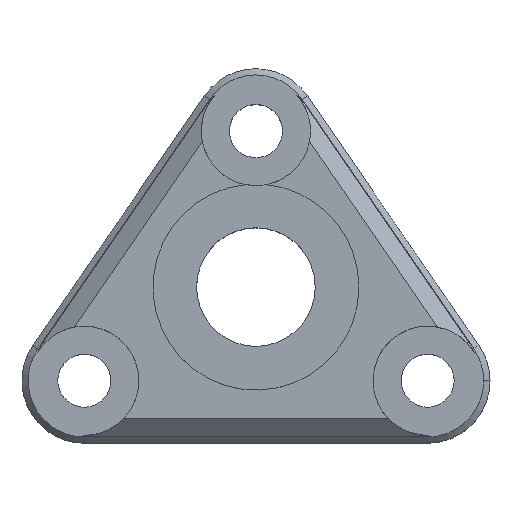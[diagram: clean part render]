
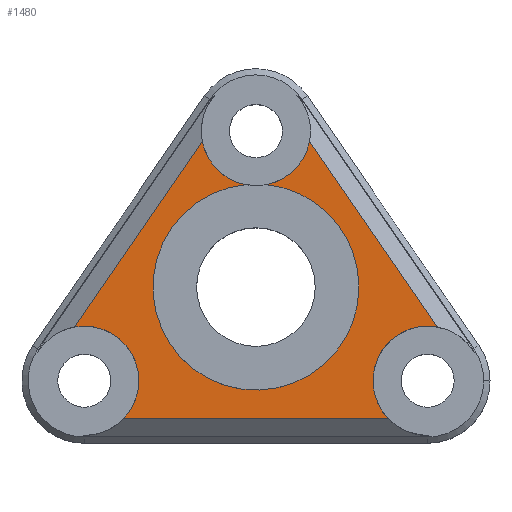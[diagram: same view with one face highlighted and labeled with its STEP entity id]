
A CAD part, top view. The second image highlights one B-rep face of the part: STEP entity #1480.
In plain terms, the highlighted planar face has unit normal (0, 0, 1).
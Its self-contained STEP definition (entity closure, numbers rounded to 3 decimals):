
#996 = VERTEX_POINT('',#997);
#997 = CARTESIAN_POINT('',(3.436,9.333,6.));
#1006 = EDGE_CURVE('',#996,#1007,#1009,.T.);
#1007 = VERTEX_POINT('',#1008);
#1008 = CARTESIAN_POINT('',(11.608,-2.553,6.));
#1009 = B_SPLINE_CURVE_WITH_KNOTS('',1,(#1010,#1011),.UNSPECIFIED.,.F.,
  .F.,(2,2),(0.,19.416),.PIECEWISE_BEZIER_KNOTS.);
#1010 = CARTESIAN_POINT('',(2.769,10.304,6.));
#1011 = CARTESIAN_POINT('',(12.009,-3.136,6.));
#1170 = VERTEX_POINT('',#1171);
#1171 = CARTESIAN_POINT('',(8.452,-8.4,6.));
#1196 = EDGE_CURVE('',#1007,#1170,#1197,.T.);
#1197 = CIRCLE('',#1198,3.5);
#1198 = AXIS2_PLACEMENT_3D('',#1199,#1200,#1201);
#1199 = CARTESIAN_POINT('',(11.,-6.,6.));
#1200 = DIRECTION('',(0.,0.,1.));
#1201 = DIRECTION('',(1.,0.,-0.));
#1220 = VERTEX_POINT('',#1221);
#1221 = CARTESIAN_POINT('',(-11.608,-2.553,6.));
#1246 = EDGE_CURVE('',#1220,#1247,#1249,.T.);
#1247 = VERTEX_POINT('',#1248);
#1248 = CARTESIAN_POINT('',(-3.436,9.333,6.));
#1249 = B_SPLINE_CURVE_WITH_KNOTS('',1,(#1250,#1251),.UNSPECIFIED.,.F.,
  .F.,(2,2),(0.,19.416),.PIECEWISE_BEZIER_KNOTS.);
#1250 = CARTESIAN_POINT('',(-12.009,-3.136,6.));
#1251 = CARTESIAN_POINT('',(-2.769,10.304,6.));
#1358 = EDGE_CURVE('',#1170,#1359,#1361,.T.);
#1359 = VERTEX_POINT('',#1360);
#1360 = CARTESIAN_POINT('',(-8.452,-8.4,6.));
#1361 = B_SPLINE_CURVE_WITH_KNOTS('',1,(#1362,#1363),.UNSPECIFIED.,.F.,
  .F.,(2,2),(0.,22.),.PIECEWISE_BEZIER_KNOTS.);
#1362 = CARTESIAN_POINT('',(9.24,-8.4,6.));
#1363 = CARTESIAN_POINT('',(-9.24,-8.4,6.));
#1480 = ADVANCED_FACE('',(#1481),#1537,.T.);
#1481 = FACE_BOUND('',#1482,.T.);
#1482 = EDGE_LOOP('',(#1483,#1484,#1493,#1502,#1511,#1518,#1519,#1528,
    #1535,#1536));
#1483 = ORIENTED_EDGE('',*,*,#1006,.F.);
#1484 = ORIENTED_EDGE('',*,*,#1485,.F.);
#1485 = EDGE_CURVE('',#1486,#996,#1488,.T.);
#1486 = VERTEX_POINT('',#1487);
#1487 = CARTESIAN_POINT('',(0.674,6.566,6.));
#1488 = CIRCLE('',#1489,3.5);
#1489 = AXIS2_PLACEMENT_3D('',#1490,#1491,#1492);
#1490 = CARTESIAN_POINT('',(0.,10.,6.));
#1491 = DIRECTION('',(0.,0.,1.));
#1492 = DIRECTION('',(1.,0.,-0.));
#1493 = ORIENTED_EDGE('',*,*,#1494,.F.);
#1494 = EDGE_CURVE('',#1495,#1486,#1497,.T.);
#1495 = VERTEX_POINT('',#1496);
#1496 = CARTESIAN_POINT('',(6.6,0.,6.));
#1497 = CIRCLE('',#1498,6.6);
#1498 = AXIS2_PLACEMENT_3D('',#1499,#1500,#1501);
#1499 = CARTESIAN_POINT('',(0.,0.,6.));
#1500 = DIRECTION('',(0.,0.,1.));
#1501 = DIRECTION('',(1.,0.,-0.));
#1502 = ORIENTED_EDGE('',*,*,#1503,.F.);
#1503 = EDGE_CURVE('',#1504,#1495,#1506,.T.);
#1504 = VERTEX_POINT('',#1505);
#1505 = CARTESIAN_POINT('',(-0.674,6.566,6.));
#1506 = CIRCLE('',#1507,6.6);
#1507 = AXIS2_PLACEMENT_3D('',#1508,#1509,#1510);
#1508 = CARTESIAN_POINT('',(0.,0.,6.));
#1509 = DIRECTION('',(0.,0.,1.));
#1510 = DIRECTION('',(1.,0.,-0.));
#1511 = ORIENTED_EDGE('',*,*,#1512,.F.);
#1512 = EDGE_CURVE('',#1247,#1504,#1513,.T.);
#1513 = CIRCLE('',#1514,3.5);
#1514 = AXIS2_PLACEMENT_3D('',#1515,#1516,#1517);
#1515 = CARTESIAN_POINT('',(0.,10.,6.));
#1516 = DIRECTION('',(0.,0.,1.));
#1517 = DIRECTION('',(1.,0.,-0.));
#1518 = ORIENTED_EDGE('',*,*,#1246,.F.);
#1519 = ORIENTED_EDGE('',*,*,#1520,.F.);
#1520 = EDGE_CURVE('',#1521,#1220,#1523,.T.);
#1521 = VERTEX_POINT('',#1522);
#1522 = CARTESIAN_POINT('',(-7.5,-6.,6.));
#1523 = CIRCLE('',#1524,3.5);
#1524 = AXIS2_PLACEMENT_3D('',#1525,#1526,#1527);
#1525 = CARTESIAN_POINT('',(-11.,-6.,6.));
#1526 = DIRECTION('',(0.,0.,1.));
#1527 = DIRECTION('',(1.,0.,-0.));
#1528 = ORIENTED_EDGE('',*,*,#1529,.F.);
#1529 = EDGE_CURVE('',#1359,#1521,#1530,.T.);
#1530 = CIRCLE('',#1531,3.5);
#1531 = AXIS2_PLACEMENT_3D('',#1532,#1533,#1534);
#1532 = CARTESIAN_POINT('',(-11.,-6.,6.));
#1533 = DIRECTION('',(0.,0.,1.));
#1534 = DIRECTION('',(1.,0.,-0.));
#1535 = ORIENTED_EDGE('',*,*,#1358,.F.);
#1536 = ORIENTED_EDGE('',*,*,#1196,.F.);
#1537 = PLANE('',#1538);
#1538 = AXIS2_PLACEMENT_3D('',#1539,#1540,#1541);
#1539 = CARTESIAN_POINT('',(2.769,10.304,6.));
#1540 = DIRECTION('',(0.,0.,1.));
#1541 = DIRECTION('',(-0.619,-0.785,0.));
